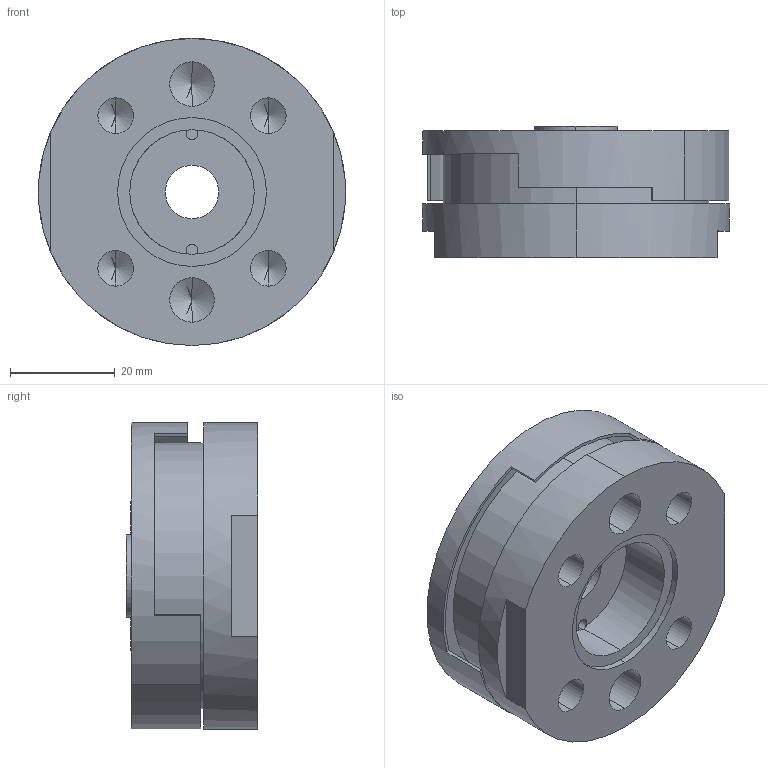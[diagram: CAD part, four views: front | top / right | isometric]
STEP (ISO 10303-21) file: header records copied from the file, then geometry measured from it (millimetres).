
FILE_DESCRIPTION (( 'STEP AP203' ), '1' );
FILE_NAME ('1007056.STEP', '2016-11-15T15:56:15', ( '' ), ( '' ), 'SwSTEP 2.0', 'SolidWorks 2014', '' );
FILE_SCHEMA (( 'CONFIG_CONTROL_DESIGN' ));
Length unit declared in the file: inch
Products named in the file (1): 1007056
Bounding box: 58.72 x 25.15 x 58.72 mm (x, y, z)
Volume: 47384.2 mm3; surface area: 20133.2 mm2
Topology: 1 solids, 3 shells, 163 faces, 390 edges, 232 vertices
Faces by surface type: plane 59, cone 50, cylinder 50, torus 4
Entity records: 4930 total; most frequent: CARTESIAN_POINT 1154, DIRECTION 814, ORIENTED_EDGE 756, EDGE_CURVE 378, AXIS2_PLACEMENT_3D 343, VERTEX_POINT 232, EDGE_LOOP 184, CIRCLE 179
